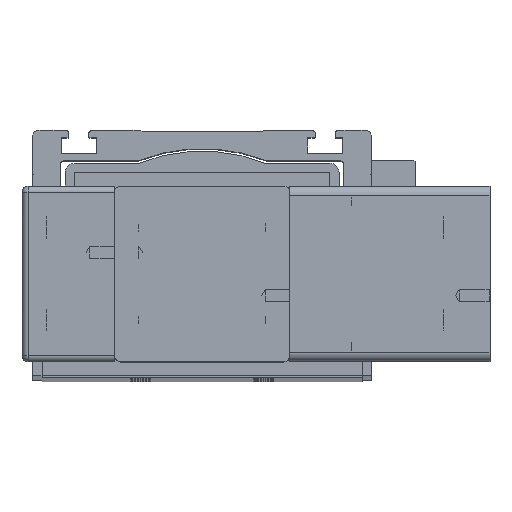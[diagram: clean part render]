
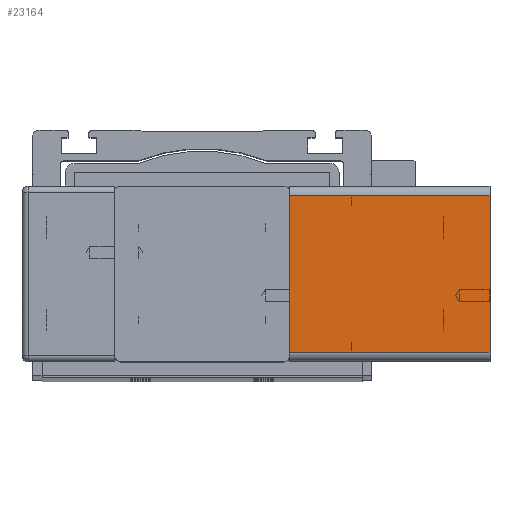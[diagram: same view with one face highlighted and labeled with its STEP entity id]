
A CAD part, top view. The second image highlights one B-rep face of the part: STEP entity #23164.
In plain terms, the highlighted planar face has unit normal (0, 0, 1) as drawn and (1, 0, 0) by its records, which use the part's own axes.
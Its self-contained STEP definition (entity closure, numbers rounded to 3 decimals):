
#23097=CARTESIAN_POINT('',(57.0,54.0,-65.0));
#23098=VERTEX_POINT('',#23097);
#23116=CARTESIAN_POINT('',(57.0,54.0,0.0));
#23117=VERTEX_POINT('',#23116);
#23125=CARTESIAN_POINT('',(57.0,54.0,0.0));
#23126=DIRECTION('',(0.0,0.0,-1.0));
#23127=VECTOR('',#23126,65.0);
#23128=LINE('',#23125,#23127);
#23129=EDGE_CURVE('',#23117,#23098,#23128,.T.);
#23134=CARTESIAN_POINT('',(57.0,0.0,0.0));
#23135=DIRECTION('',(1.0,0.0,0.0));
#23136=DIRECTION('',(0.0,0.0,-1.0));
#23137=AXIS2_PLACEMENT_3D('',#23134,#23135,#23136);
#23138=PLANE('',#23137);
#23139=ORIENTED_EDGE('',*,*,#23129,.F.);
#23140=CARTESIAN_POINT('',(57.0,3.,0.0));
#23141=VERTEX_POINT('',#23140);
#23142=CARTESIAN_POINT('',(57.0,3.,0.0));
#23143=DIRECTION('',(0.0,1.0,0.0));
#23144=VECTOR('',#23143,51.0);
#23145=LINE('',#23142,#23144);
#23146=EDGE_CURVE('',#23141,#23117,#23145,.T.);
#23147=ORIENTED_EDGE('',*,*,#23146,.F.);
#23148=CARTESIAN_POINT('',(57.0,3.,-65.0));
#23149=VERTEX_POINT('',#23148);
#23150=CARTESIAN_POINT('',(57.0,3.,-65.0));
#23151=DIRECTION('',(0.0,0.0,1.0));
#23152=VECTOR('',#23151,65.0);
#23153=LINE('',#23150,#23152);
#23154=EDGE_CURVE('',#23149,#23141,#23153,.T.);
#23155=ORIENTED_EDGE('',*,*,#23154,.F.);
#23156=CARTESIAN_POINT('',(57.0,3.,-65.0));
#23157=DIRECTION('',(0.0,1.0,0.0));
#23158=VECTOR('',#23157,51.0);
#23159=LINE('',#23156,#23158);
#23160=EDGE_CURVE('',#23149,#23098,#23159,.T.);
#23161=ORIENTED_EDGE('',*,*,#23160,.T.);
#23162=EDGE_LOOP('',(#23139,#23147,#23155,#23161));
#23163=FACE_OUTER_BOUND('',#23162,.T.);
#23164=ADVANCED_FACE('',(#23163),#23138,.T.);
